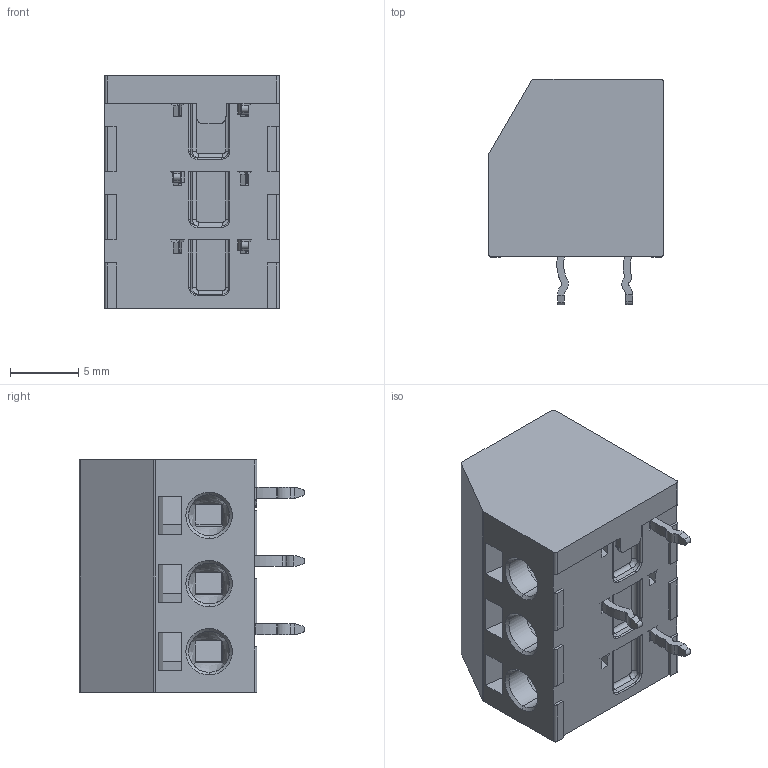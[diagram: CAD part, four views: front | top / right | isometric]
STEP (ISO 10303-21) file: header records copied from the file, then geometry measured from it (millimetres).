
FILE_DESCRIPTION((''),'2;1');
FILE_NAME('H70300830000G','2017-09-26T',('exploitation'),(''),'CREO PARAMETRIC BY PTC INC, 2014500','CREO PARAMETRIC BY PTC INC, 2014500','');
FILE_SCHEMA(('CONFIG_CONTROL_DESIGN'));
Length unit declared in the file: millimetre
Products named in the file (1): H70300830000G
Bounding box: 12.8 x 16.5 x 17 mm (x, y, z)
Volume: 1976.3 mm3; surface area: 3071.3 mm2
Topology: 1 solids, 13 shells, 1030 faces, 2749 edges, 1714 vertices
Faces by surface type: plane 413, cylinder 337, cone 192, torus 48, bspline 36, sphere 4
Entity records: 33415 total; most frequent: CARTESIAN_POINT 7157, DIRECTION 5634, ORIENTED_EDGE 5498, EDGE_CURVE 2749, AXIS2_PLACEMENT_3D 1996, VERTEX_POINT 1714, VECTOR 1642, LINE 1642
